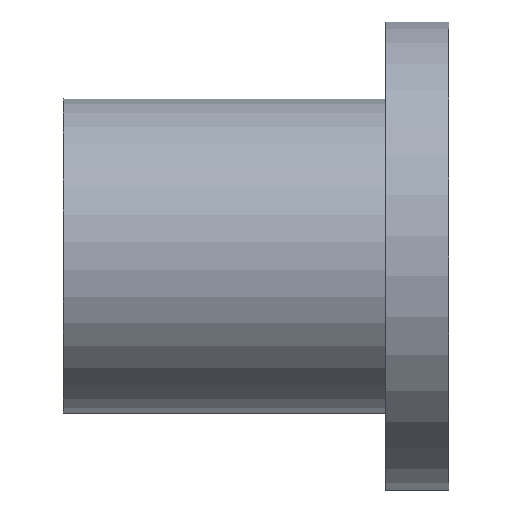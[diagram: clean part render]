
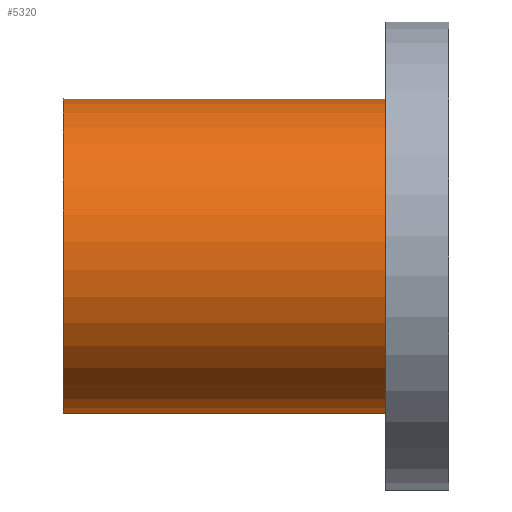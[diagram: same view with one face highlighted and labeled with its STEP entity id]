
A CAD part, front view. The second image highlights one B-rep face of the part: STEP entity #5320.
In plain terms, the highlighted cylindrical face has radius 45 mm (diameter 90 mm), a full revolution.
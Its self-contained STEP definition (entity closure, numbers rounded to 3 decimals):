
#81=CYLINDRICAL_SURFACE('',#5662,45.);
#108=CIRCLE('',#5663,45.);
#109=CIRCLE('',#5664,45.);
#1601=ORIENTED_EDGE('',*,*,#3131,.T.);
#1602=ORIENTED_EDGE('',*,*,#3132,.T.);
#3131=EDGE_CURVE('',#3896,#3896,#108,.T.);
#3132=EDGE_CURVE('',#3897,#3897,#109,.F.);
#3896=VERTEX_POINT('',#8454);
#3897=VERTEX_POINT('',#8456);
#4343=EDGE_LOOP('',(#1601));
#4344=EDGE_LOOP('',(#1602));
#4734=FACE_BOUND('',#4343,.T.);
#4735=FACE_BOUND('',#4344,.T.);
#5320=ADVANCED_FACE('',(#4734,#4735),#81,.T.);
#5662=AXIS2_PLACEMENT_3D('',#8452,#6143,#6144);
#5663=AXIS2_PLACEMENT_3D('',#8453,#6145,#6146);
#5664=AXIS2_PLACEMENT_3D('',#8455,#6147,#6148);
#6143=DIRECTION('',(1.,0.,0.));
#6144=DIRECTION('',(0.,0.707,-0.707));
#6145=DIRECTION('',(1.,0.,0.));
#6146=DIRECTION('',(0.,0.707,-0.707));
#6147=DIRECTION('',(1.,0.,0.));
#6148=DIRECTION('',(0.,0.707,-0.707));
#8452=CARTESIAN_POINT('',(-55.,0.,0.));
#8453=CARTESIAN_POINT('',(-55.,0.,0.));
#8454=CARTESIAN_POINT('',(-55.,31.82,-31.82));
#8455=CARTESIAN_POINT('',(37.,0.,0.));
#8456=CARTESIAN_POINT('',(37.,31.82,-31.82));
